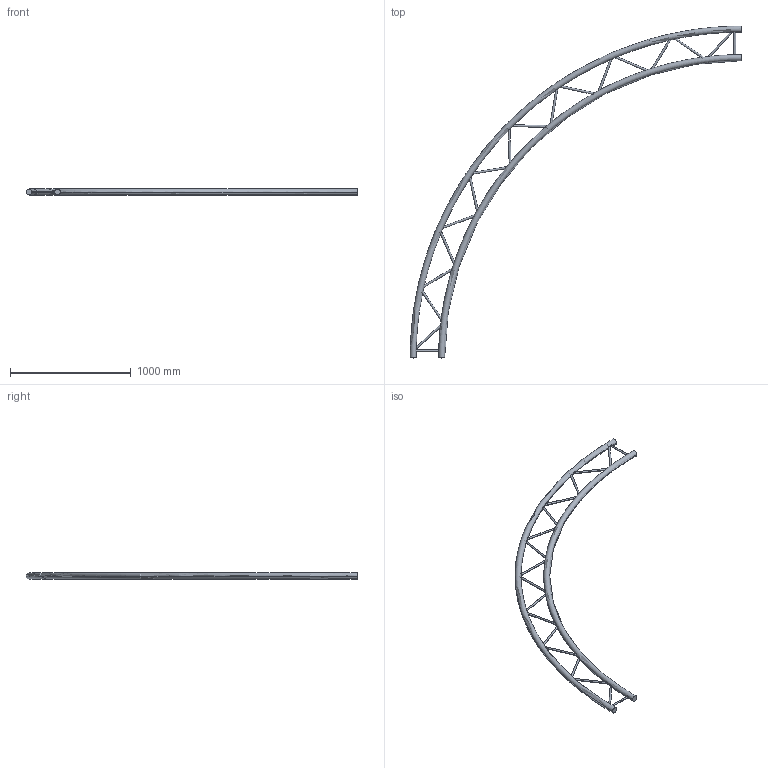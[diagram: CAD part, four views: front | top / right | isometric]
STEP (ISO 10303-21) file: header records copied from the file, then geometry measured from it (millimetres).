
FILE_DESCRIPTION (( 'STEP AP203' ), '1' );
FILE_NAME ('EXC29550H.STEP', '2009-10-26T09:36:25', ( 'CEDIA' ), ( 'CEDIA INDUSTRIE' ), 'SwSTEP 2.0', 'SolidWorks 2009', '' );
FILE_SCHEMA (( 'CONFIG_CONTROL_DESIGN' ));
Length unit declared in the file: millimetre
Products named in the file (1): EXC29550H
Bounding box: 2750 x 2750 x 50 mm (x, y, z)
Volume: 17026116.6 mm3; surface area: 1521798.5 mm2
Topology: 1 solids, 1 shells, 44 faces, 156 edges, 80 vertices
Faces by surface type: cylinder 36, torus 4, plane 4
Entity records: 4962 total; most frequent: CARTESIAN_POINT 3650, ORIENTED_EDGE 312, DIRECTION 222, EDGE_CURVE 156, AXIS2_PLACEMENT_3D 93, VERTEX_POINT 80, B_SPLINE_CURVE_WITH_KNOTS 72, CIRCLE 48
